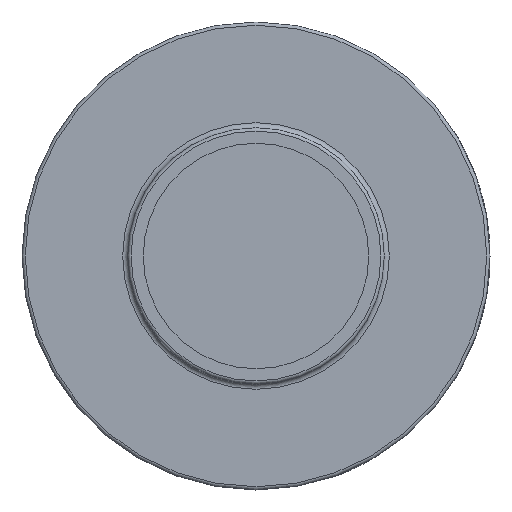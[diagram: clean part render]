
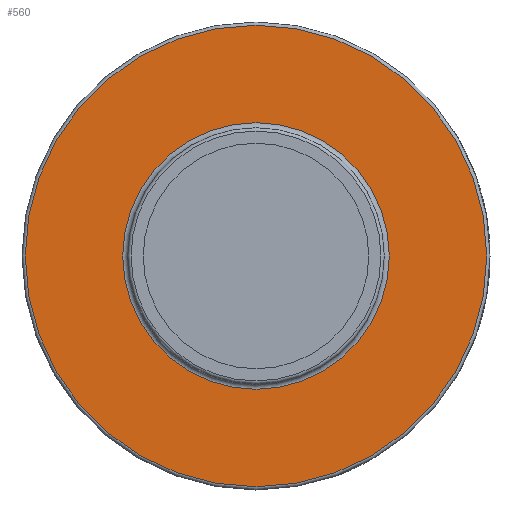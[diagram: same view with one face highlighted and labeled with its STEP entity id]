
A CAD part, left-side view. The second image highlights one B-rep face of the part: STEP entity #560.
In plain terms, the highlighted planar face has unit normal (-1, 0, 0).
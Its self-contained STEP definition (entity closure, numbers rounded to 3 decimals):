
#560 = ADVANCED_FACE( '', ( #1194, #1195 ), #1196, .F. );
#1194 = FACE_BOUND( '', #2784, .T. );
#1195 = FACE_OUTER_BOUND( '', #2785, .T. );
#1196 = PLANE( '', #2786 );
#2784 = EDGE_LOOP( '', ( #4505 ) );
#2785 = EDGE_LOOP( '', ( #4506 ) );
#2786 = AXIS2_PLACEMENT_3D( '', #4507, #4508, #4509 );
#4505 = ORIENTED_EDGE( '', *, *, #4866, .F. );
#4506 = ORIENTED_EDGE( '', *, *, #5494, .T. );
#4507 = CARTESIAN_POINT( '', ( 24.082, 0., 20.796 ) );
#4508 = DIRECTION( '', ( 1., 0., 0. ) );
#4509 = DIRECTION( '', ( 0., 0., -1. ) );
#4866 = EDGE_CURVE( '', #5607, #5607, #5608, .T. );
#5494 = EDGE_CURVE( '', #6557, #6557, #6558, .T. );
#5607 = VERTEX_POINT( '', #6706 );
#5608 = CIRCLE( '', #6707, 20.796 );
#6557 = VERTEX_POINT( '', #9080 );
#6558 = CIRCLE( '', #9081, 36.005 );
#6706 = CARTESIAN_POINT( '', ( 24.082, 0., 20.796 ) );
#6707 = AXIS2_PLACEMENT_3D( '', #9177, #9178, #9179 );
#9080 = CARTESIAN_POINT( '', ( 24.082, 0., 36.005 ) );
#9081 = AXIS2_PLACEMENT_3D( '', #9222, #9223, #9224 );
#9177 = CARTESIAN_POINT( '', ( 24.082, 0., 0. ) );
#9178 = DIRECTION( '', ( -1., 0., 0. ) );
#9179 = DIRECTION( '', ( 0., 0., 1. ) );
#9222 = CARTESIAN_POINT( '', ( 24.082, 0., 0. ) );
#9223 = DIRECTION( '', ( -1., 0., 0. ) );
#9224 = DIRECTION( '', ( 0., 0., 1. ) );
